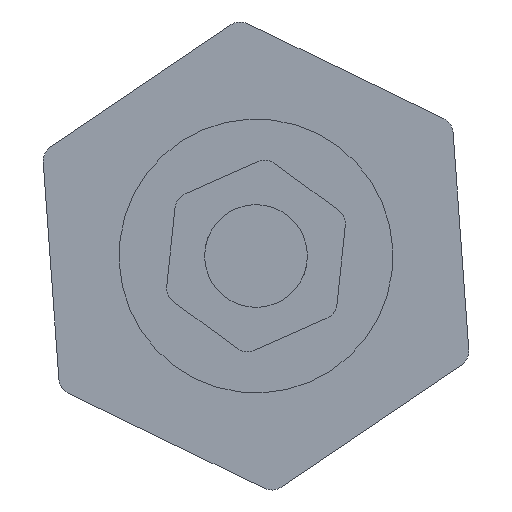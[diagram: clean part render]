
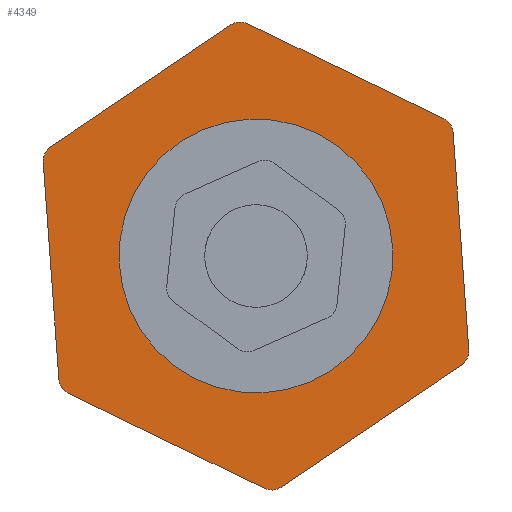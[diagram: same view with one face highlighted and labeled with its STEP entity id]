
A CAD part, front view. The second image highlights one B-rep face of the part: STEP entity #4349.
In plain terms, the highlighted planar face has unit normal (0, -1, 0) as drawn and (0, 0, 1) by its records, which use the part's own axes.
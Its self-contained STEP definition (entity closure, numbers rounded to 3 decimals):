
#5 = CARTESIAN_POINT ( 'NONE',  ( 7.382, -11.395, 6. ) ) ;
#124 = DIRECTION ( 'NONE',  ( 0., 0., 1. ) ) ;
#222 = CARTESIAN_POINT ( 'NONE',  ( 0., 0., 6. ) ) ;
#285 = EDGE_CURVE ( 'NONE', #2034, #3827, #8700, .T. ) ;
#294 = PLANE ( 'NONE',  #1514 ) ;
#303 = DIRECTION ( 'NONE',  ( 0., 0., 1. ) ) ;
#345 = CARTESIAN_POINT ( 'NONE',  ( -6.523, 11.907, 6. ) ) ;
#421 = VERTEX_POINT ( 'NONE', #9000 ) ;
#594 = CARTESIAN_POINT ( 'NONE',  ( 6.523, -11.907, 6. ) ) ;
#675 = CARTESIAN_POINT ( 'NONE',  ( -6.509, 10.907, 6. ) ) ;
#707 = CARTESIAN_POINT ( 'NONE',  ( -7.382, 11.395, 6. ) ) ;
#842 = EDGE_CURVE ( 'NONE', #6301, #5977, #4283, .T. ) ;
#879 = VERTEX_POINT ( 'NONE', #707 ) ;
#936 = EDGE_CURVE ( 'NONE', #11621, #9290, #2685, .T. ) ;
#941 = CARTESIAN_POINT ( 'NONE',  ( -6.177, -12.09, 6. ) ) ;
#976 = DIRECTION ( 'NONE',  ( 1., 0., 0. ) ) ;
#1098 = DIRECTION ( 'NONE',  ( 0.512, -0.859, 0. ) ) ;
#1295 = FACE_OUTER_BOUND ( 'NONE', #7946, .T. ) ;
#1514 = AXIS2_PLACEMENT_3D ( 'NONE', #222, #4596, #13384 ) ;
#1759 = CIRCLE ( 'NONE', #10971, 1. ) ;
#1786 = CARTESIAN_POINT ( 'NONE',  ( -12.7, -0.183, 6. ) ) ;
#1980 = EDGE_CURVE ( 'NONE', #11500, #5140, #4904, .T. ) ;
#2034 = VERTEX_POINT ( 'NONE', #5996 ) ;
#2266 = ORIENTED_EDGE ( 'NONE', *, *, #936, .T. ) ;
#2395 = CIRCLE ( 'NONE', #12743, 1. ) ;
#2554 = EDGE_CURVE ( 'NONE', #2779, #6301, #7491, .T. ) ;
#2658 = CARTESIAN_POINT ( 'NONE',  ( -7., 0., 6. ) ) ;
#2685 = CIRCLE ( 'NONE', #3369, 1. ) ;
#2779 = VERTEX_POINT ( 'NONE', #4151 ) ;
#3217 = DIRECTION ( 'NONE',  ( -0.512, 0.859, 0. ) ) ;
#3369 = AXIS2_PLACEMENT_3D ( 'NONE', #1786, #5076, #9485 ) ;
#3509 = DIRECTION ( 'NONE',  ( 1., 0., 0. ) ) ;
#3543 = DIRECTION ( 'NONE',  ( -0.487, -0.873, 0. ) ) ;
#3664 = CARTESIAN_POINT ( 'NONE',  ( 12.7, 0.183, 6. ) ) ;
#3746 = DIRECTION ( 'NONE',  ( 0., 0., 1. ) ) ;
#3749 = CARTESIAN_POINT ( 'NONE',  ( -7.101, 11.899, 6. ) ) ;
#3757 = VECTOR ( 'NONE', #10115, 1000. ) ;
#3803 = LINE ( 'NONE', #10682, #14204 ) ;
#3827 = VERTEX_POINT ( 'NONE', #2658 ) ;
#3905 = CARTESIAN_POINT ( 'NONE',  ( -13.7, -0.183, 6. ) ) ;
#4151 = CARTESIAN_POINT ( 'NONE',  ( -13.559, -0.696, 6. ) ) ;
#4283 = CIRCLE ( 'NONE', #12358, 1. ) ;
#4349 = ADVANCED_FACE ( 'NONE', ( #1295, #5896 ), #294, .T. ) ;
#4418 = CARTESIAN_POINT ( 'NONE',  ( -12.7, -0.183, 6. ) ) ;
#4555 = DIRECTION ( 'NONE',  ( 0., 0., 1. ) ) ;
#4596 = DIRECTION ( 'NONE',  ( 0., 0., 1. ) ) ;
#4683 = VERTEX_POINT ( 'NONE', #10253 ) ;
#4762 = CARTESIAN_POINT ( 'NONE',  ( 7.101, -11.899, 6. ) ) ;
#4884 = AXIS2_PLACEMENT_3D ( 'NONE', #13546, #3746, #8143 ) ;
#4904 = LINE ( 'NONE', #13616, #7882 ) ;
#4939 = CARTESIAN_POINT ( 'NONE',  ( -6.192, -11.09, 6. ) ) ;
#5076 = DIRECTION ( 'NONE',  ( 0., 0., 1. ) ) ;
#5096 = DIRECTION ( 'NONE',  ( 1., 0.014, 0. ) ) ;
#5140 = VERTEX_POINT ( 'NONE', #345 ) ;
#5393 = ORIENTED_EDGE ( 'NONE', *, *, #8840, .T. ) ;
#5404 = ORIENTED_EDGE ( 'NONE', *, *, #7109, .T. ) ;
#5406 = CARTESIAN_POINT ( 'NONE',  ( -13.855, -0.2, 6. ) ) ;
#5499 = ORIENTED_EDGE ( 'NONE', *, *, #842, .T. ) ;
#5636 = AXIS2_PLACEMENT_3D ( 'NONE', #10049, #4555, #6652 ) ;
#5794 = EDGE_CURVE ( 'NONE', #10757, #4683, #11204, .T. ) ;
#5812 = CIRCLE ( 'NONE', #13393, 1. ) ;
#5874 = CARTESIAN_POINT ( 'NONE',  ( 0., 0., 6. ) ) ;
#5893 = VERTEX_POINT ( 'NONE', #594 ) ;
#5896 = FACE_BOUND ( 'NONE', #7623, .T. ) ;
#5928 = ORIENTED_EDGE ( 'NONE', *, *, #1980, .T. ) ;
#5969 = ORIENTED_EDGE ( 'NONE', *, *, #5794, .T. ) ;
#5977 = VERTEX_POINT ( 'NONE', #941 ) ;
#5996 = CARTESIAN_POINT ( 'NONE',  ( 7., 0., 6. ) ) ;
#6198 = EDGE_CURVE ( 'NONE', #9290, #2779, #5812, .T. ) ;
#6301 = VERTEX_POINT ( 'NONE', #13700 ) ;
#6353 = ORIENTED_EDGE ( 'NONE', *, *, #285, .F. ) ;
#6616 = EDGE_CURVE ( 'NONE', #5893, #10757, #11129, .T. ) ;
#6652 = DIRECTION ( 'NONE',  ( 1., 0., 0. ) ) ;
#6686 = CARTESIAN_POINT ( 'NONE',  ( 6.192, 11.09, 6. ) ) ;
#7006 = LINE ( 'NONE', #3749, #12774 ) ;
#7109 = EDGE_CURVE ( 'NONE', #14077, #11500, #2395, .T. ) ;
#7211 = DIRECTION ( 'NONE',  ( 0., 0., 1. ) ) ;
#7232 = CIRCLE ( 'NONE', #5636, 7. ) ;
#7491 = LINE ( 'NONE', #5406, #12498 ) ;
#7528 = CARTESIAN_POINT ( 'NONE',  ( -13.574, 0.304, 6. ) ) ;
#7623 = EDGE_LOOP ( 'NONE', ( #11010, #6353 ) ) ;
#7805 = EDGE_CURVE ( 'NONE', #4683, #421, #1759, .T. ) ;
#7882 = VECTOR ( 'NONE', #10333, 1000. ) ;
#7946 = EDGE_LOOP ( 'NONE', ( #5969, #13613, #11824, #5404, #5928, #11487, #5393, #2266, #12932, #9063, #5499, #9813, #13902 ) ) ;
#7972 = CARTESIAN_POINT ( 'NONE',  ( 6.177, 12.09, 6. ) ) ;
#8143 = DIRECTION ( 'NONE',  ( 1., 0., 0. ) ) ;
#8161 = DIRECTION ( 'NONE',  ( 0., 0., 1. ) ) ;
#8247 = DIRECTION ( 'NONE',  ( 0., 0., 1. ) ) ;
#8428 = DIRECTION ( 'NONE',  ( 1., 0., 0. ) ) ;
#8700 = CIRCLE ( 'NONE', #12165, 7. ) ;
#8750 = LINE ( 'NONE', #14096, #13596 ) ;
#8754 = EDGE_CURVE ( 'NONE', #3827, #2034, #7232, .T. ) ;
#8840 = EDGE_CURVE ( 'NONE', #879, #11621, #7006, .T. ) ;
#9000 = CARTESIAN_POINT ( 'NONE',  ( 13.559, 0.696, 6. ) ) ;
#9063 = ORIENTED_EDGE ( 'NONE', *, *, #2554, .T. ) ;
#9290 = VERTEX_POINT ( 'NONE', #3905 ) ;
#9472 = CIRCLE ( 'NONE', #10399, 1. ) ;
#9485 = DIRECTION ( 'NONE',  ( 1., 0., 0. ) ) ;
#9657 = EDGE_CURVE ( 'NONE', #5140, #879, #9472, .T. ) ;
#9813 = ORIENTED_EDGE ( 'NONE', *, *, #11334, .T. ) ;
#9840 = CARTESIAN_POINT ( 'NONE',  ( 7.05, 11.603, 6. ) ) ;
#10049 = CARTESIAN_POINT ( 'NONE',  ( 0., 0., 6. ) ) ;
#10106 = DIRECTION ( 'NONE',  ( 1., 0., 0. ) ) ;
#10115 = DIRECTION ( 'NONE',  ( 0.487, 0.873, 0. ) ) ;
#10253 = CARTESIAN_POINT ( 'NONE',  ( 13.574, -0.304, 6. ) ) ;
#10333 = DIRECTION ( 'NONE',  ( -1., -0.014, 0. ) ) ;
#10399 = AXIS2_PLACEMENT_3D ( 'NONE', #675, #7211, #8428 ) ;
#10682 = CARTESIAN_POINT ( 'NONE',  ( -6.754, -12.099, 6. ) ) ;
#10757 = VERTEX_POINT ( 'NONE', #5 ) ;
#10971 = AXIS2_PLACEMENT_3D ( 'NONE', #3664, #303, #10106 ) ;
#11010 = ORIENTED_EDGE ( 'NONE', *, *, #8754, .F. ) ;
#11100 = DIRECTION ( 'NONE',  ( 0., 0., 1. ) ) ;
#11129 = CIRCLE ( 'NONE', #4884, 1. ) ;
#11204 = LINE ( 'NONE', #4762, #3757 ) ;
#11246 = DIRECTION ( 'NONE',  ( 1., 0., 0. ) ) ;
#11334 = EDGE_CURVE ( 'NONE', #5977, #5893, #3803, .T. ) ;
#11487 = ORIENTED_EDGE ( 'NONE', *, *, #9657, .T. ) ;
#11500 = VERTEX_POINT ( 'NONE', #7972 ) ;
#11621 = VERTEX_POINT ( 'NONE', #7528 ) ;
#11824 = ORIENTED_EDGE ( 'NONE', *, *, #13070, .T. ) ;
#12165 = AXIS2_PLACEMENT_3D ( 'NONE', #5874, #8161, #13634 ) ;
#12358 = AXIS2_PLACEMENT_3D ( 'NONE', #4939, #8247, #11246 ) ;
#12498 = VECTOR ( 'NONE', #1098, 1000. ) ;
#12743 = AXIS2_PLACEMENT_3D ( 'NONE', #6686, #11100, #3509 ) ;
#12774 = VECTOR ( 'NONE', #3543, 1000. ) ;
#12932 = ORIENTED_EDGE ( 'NONE', *, *, #6198, .T. ) ;
#13070 = EDGE_CURVE ( 'NONE', #421, #14077, #8750, .T. ) ;
#13384 = DIRECTION ( 'NONE',  ( 1., 0., 0. ) ) ;
#13393 = AXIS2_PLACEMENT_3D ( 'NONE', #4418, #124, #976 ) ;
#13546 = CARTESIAN_POINT ( 'NONE',  ( 6.509, -10.907, 6. ) ) ;
#13596 = VECTOR ( 'NONE', #3217, 1000. ) ;
#13613 = ORIENTED_EDGE ( 'NONE', *, *, #7805, .T. ) ;
#13616 = CARTESIAN_POINT ( 'NONE',  ( 6.754, 12.099, 6. ) ) ;
#13634 = DIRECTION ( 'NONE',  ( 1., 0., 0. ) ) ;
#13700 = CARTESIAN_POINT ( 'NONE',  ( -7.05, -11.603, 6. ) ) ;
#13902 = ORIENTED_EDGE ( 'NONE', *, *, #6616, .T. ) ;
#14077 = VERTEX_POINT ( 'NONE', #9840 ) ;
#14096 = CARTESIAN_POINT ( 'NONE',  ( 13.855, 0.2, 6. ) ) ;
#14204 = VECTOR ( 'NONE', #5096, 1000. ) ;
